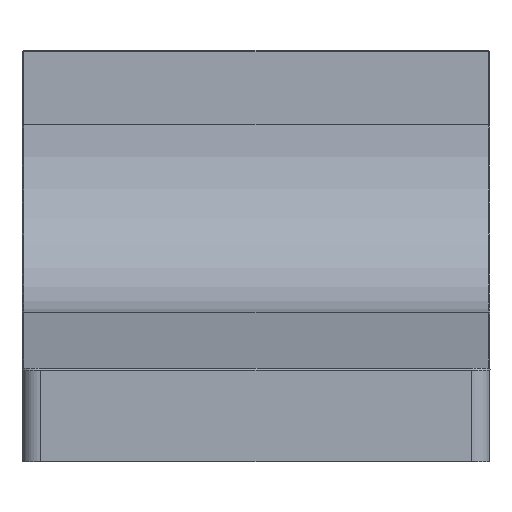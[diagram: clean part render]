
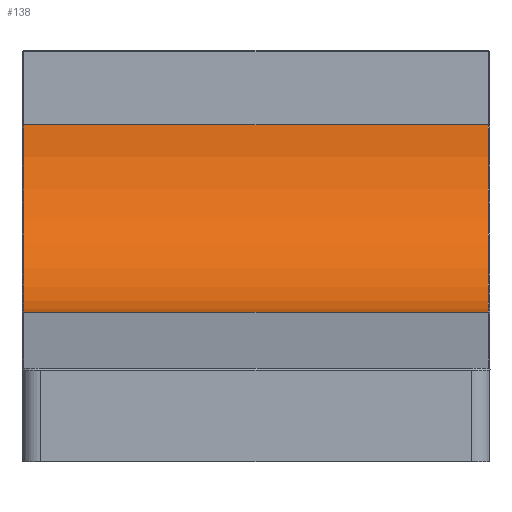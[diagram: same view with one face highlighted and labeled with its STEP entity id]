
A CAD part, front view. The second image highlights one B-rep face of the part: STEP entity #138.
In plain terms, the highlighted cylindrical face has radius 10 mm (diameter 20 mm), a partial arc.
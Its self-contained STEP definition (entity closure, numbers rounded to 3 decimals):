
#10 = VERTEX_POINT ( 'NONE', #175 ) ;
#27 = EDGE_CURVE ( 'NONE', #1528, #10, #287, .T. ) ;
#52 = ORIENTED_EDGE ( 'NONE', *, *, #27, .T. ) ;
#57 = VERTEX_POINT ( 'NONE', #531 ) ;
#90 = EDGE_LOOP ( 'NONE', ( #52, #1585, #1465, #1400 ) ) ;
#138 = ADVANCED_FACE ( 'NONE', ( #937 ), #938, .F. ) ;
#151 = CARTESIAN_POINT ( 'NONE',  ( 12.4, 8., 8. ) ) ;
#175 = CARTESIAN_POINT ( 'NONE',  ( -12.4, 8., 8. ) ) ;
#287 = CIRCLE ( 'NONE', #288, 10. ) ;
#288 = AXIS2_PLACEMENT_3D ( 'NONE', #289, #290, #291 ) ;
#289 = CARTESIAN_POINT ( 'NONE',  ( -12.4, 8., 18. ) ) ;
#290 = DIRECTION ( 'NONE',  ( -1., 0., 0. ) ) ;
#291 = DIRECTION ( 'NONE',  ( 0., 0., -1. ) ) ;
#490 = LINE ( 'NONE', #491, #492 ) ;
#491 = CARTESIAN_POINT ( 'NONE',  ( 0., 18., 18. ) ) ;
#492 = VECTOR ( 'NONE', #493, 1000. ) ;
#493 = DIRECTION ( 'NONE',  ( 1., 0., 0. ) ) ;
#531 = CARTESIAN_POINT ( 'NONE',  ( 12.4, 18., 18. ) ) ;
#756 = CIRCLE ( 'NONE', #757, 10. ) ;
#757 = AXIS2_PLACEMENT_3D ( 'NONE', #758, #759, #760 ) ;
#758 = CARTESIAN_POINT ( 'NONE',  ( 12.4, 8., 18. ) ) ;
#759 = DIRECTION ( 'NONE',  ( -1., 0., 0. ) ) ;
#760 = DIRECTION ( 'NONE',  ( 0., 0., -1. ) ) ;
#922 = CARTESIAN_POINT ( 'NONE',  ( -12.4, 18., 18. ) ) ;
#923 = LINE ( 'NONE', #924, #925 ) ;
#924 = CARTESIAN_POINT ( 'NONE',  ( 0., 8., 8. ) ) ;
#925 = VECTOR ( 'NONE', #926, 1000. ) ;
#926 = DIRECTION ( 'NONE',  ( 1., 0., 0. ) ) ;
#937 = FACE_OUTER_BOUND ( 'NONE', #90, .T. ) ;
#938 = CYLINDRICAL_SURFACE ( 'NONE', #939, 10. ) ;
#939 = AXIS2_PLACEMENT_3D ( 'NONE', #940, #941, #942 ) ;
#940 = CARTESIAN_POINT ( 'NONE',  ( -12.4, 8., 18. ) ) ;
#941 = DIRECTION ( 'NONE',  ( 1., 0., 0. ) ) ;
#942 = DIRECTION ( 'NONE',  ( 0., 0., -1. ) ) ;
#953 = VERTEX_POINT ( 'NONE', #151 ) ;
#1400 = ORIENTED_EDGE ( 'NONE', *, *, #1422, .F. ) ;
#1422 = EDGE_CURVE ( 'NONE', #1528, #57, #490, .T. ) ;
#1465 = ORIENTED_EDGE ( 'NONE', *, *, #1721, .F. ) ;
#1528 = VERTEX_POINT ( 'NONE', #922 ) ;
#1529 = EDGE_CURVE ( 'NONE', #10, #953, #923, .T. ) ;
#1585 = ORIENTED_EDGE ( 'NONE', *, *, #1529, .T. ) ;
#1721 = EDGE_CURVE ( 'NONE', #57, #953, #756, .T. ) ;
